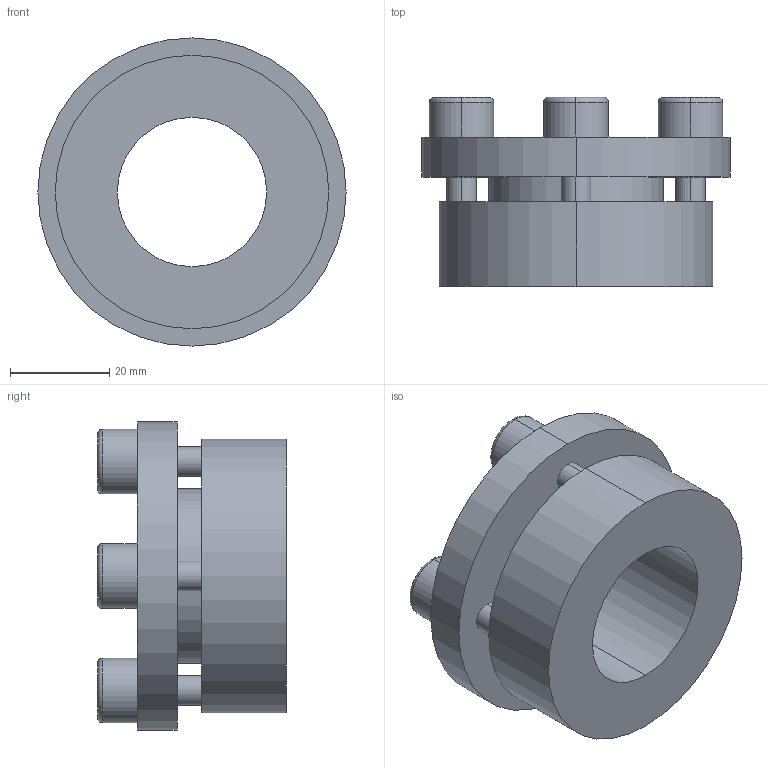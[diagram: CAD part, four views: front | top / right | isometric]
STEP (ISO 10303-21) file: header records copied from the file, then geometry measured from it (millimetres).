
FILE_DESCRIPTION (( 'STEP AP203' ), '1' );
FILE_NAME ('PL-H4 30-55.STEP', '2021-10-23T01:19:10', ( '' ), ( '' ), 'SwSTEP 2.0', 'SolidWorks 2018', '' );
FILE_SCHEMA (( 'CONFIG_CONTROL_DESIGN' ));
Length unit declared in the file: millimetre
Products named in the file (1): PL-H4 30-55
Bounding box: 62 x 38 x 62 mm (x, y, z)
Volume: 52426.7 mm3; surface area: 17043 mm2
Topology: 1 solids, 1 shells, 68 faces, 160 edges, 104 vertices
Faces by surface type: plane 36, cylinder 24, torus 8
Entity records: 2061 total; most frequent: DIRECTION 362, CARTESIAN_POINT 333, ORIENTED_EDGE 320, EDGE_CURVE 160, AXIS2_PLACEMENT_3D 133, VERTEX_POINT 104, VECTOR 96, LINE 96
